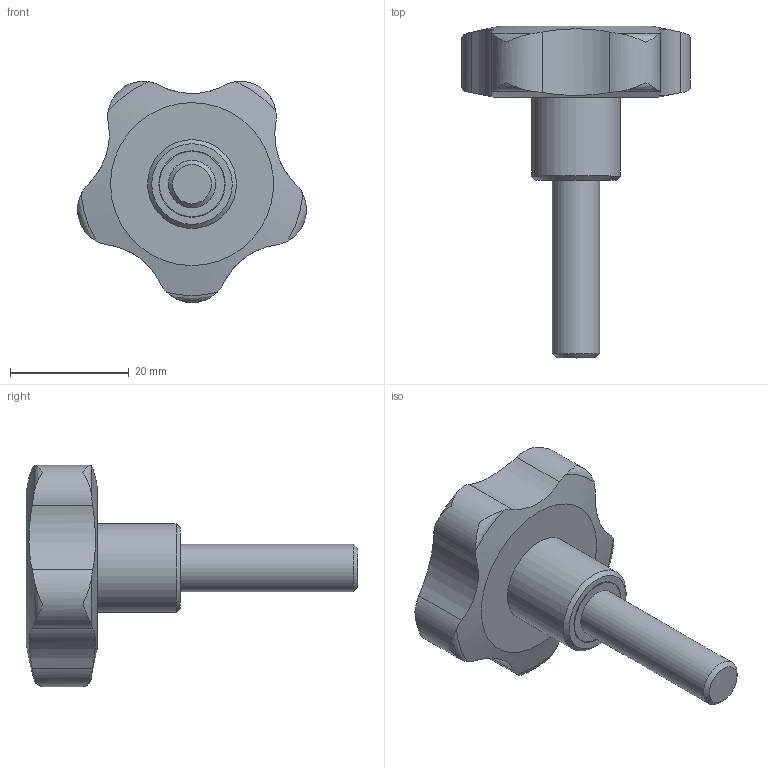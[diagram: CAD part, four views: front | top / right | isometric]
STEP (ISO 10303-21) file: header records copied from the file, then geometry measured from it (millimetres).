
FILE_DESCRIPTION( ( 'STEP AP203' ), '1' );
FILE_NAME( 'C:/Temp/Ganter_Step_05_03_2020/data/2_2/gn_5337_4/gn_5337_4_s/Star knob GN 5337.4-40-M8-30.stp', '2020-03-05T12:09:46', ( 'License CC BY-ND 4.0' ), ( 'CADENAS' ), ' ', 'PARTsolutions', ' ' );
FILE_SCHEMA( ( 'CONFIG_CONTROL_DESIGN' ) );
Length unit declared in the file: millimetre
Products named in the file (1): _Star knob GN 5337.4-40-M8-30
Bounding box: 38.62 x 56 x 37.33 mm (x, y, z)
Volume: 14980.4 mm3; surface area: 4605.3 mm2
Topology: 1 solids, 1 shells, 34 faces, 95 edges, 66 vertices
Faces by surface type: cylinder 14, torus 10, plane 5, cone 3, bspline 1, sphere 1
Full cylindrical faces by diameter (mm): 8 x1, 11 x1, 11.2 x1, 15 x1
Entity records: 1467 total; most frequent: CARTESIAN_POINT 679, ORIENTED_EDGE 164, DIRECTION 122, EDGE_CURVE 82, VERTEX_POINT 63, AXIS2_PLACEMENT_3D 56, B_SPLINE_CURVE_WITH_KNOTS 50, EDGE_LOOP 46
